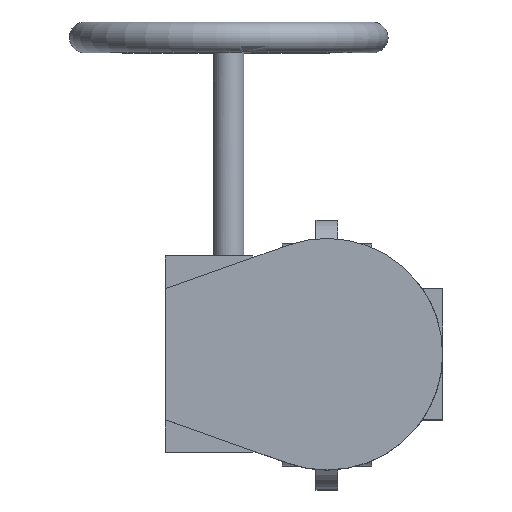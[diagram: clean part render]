
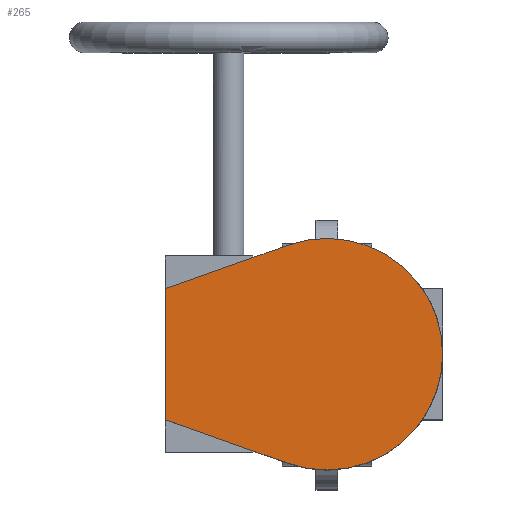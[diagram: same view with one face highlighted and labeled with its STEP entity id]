
A CAD part, top view. The second image highlights one B-rep face of the part: STEP entity #265.
In plain terms, the highlighted planar face has unit normal (0, 0, 1).
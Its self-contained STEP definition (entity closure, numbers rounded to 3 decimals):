
#265=ADVANCED_FACE('',(#5940),#5942,.T.);
#5940=FACE_BOUND('',#5941,.T.);
#5941=EDGE_LOOP('',(#10458,#10459,#10460,#10461));
#5942=PLANE('',#5943);
#5943=AXIS2_PLACEMENT_3D('',#5944,#5945,#5946);
#5944=CARTESIAN_POINT('',(0.,0.,226.));
#5945=DIRECTION('',(0.,0.,1.));
#5946=DIRECTION('',(0.,1.,0.));
#10458=ORIENTED_EDGE('',*,*,#13968,.T.);
#10459=ORIENTED_EDGE('',*,*,#13964,.T.);
#10460=ORIENTED_EDGE('',*,*,#13957,.T.);
#10461=ORIENTED_EDGE('',*,*,#13952,.T.);
#13952=EDGE_CURVE('',#15791,#15789,#15792,.T.);
#13957=EDGE_CURVE('',#15799,#15791,#15800,.T.);
#13964=EDGE_CURVE('',#15812,#15799,#15813,.T.);
#13968=EDGE_CURVE('',#15789,#15812,#15818,.T.);
#15789=VERTEX_POINT('',#18855);
#15791=VERTEX_POINT('',#18859);
#15792=LINE('',#18860,#18861);
#15799=VERTEX_POINT('',#18877);
#15800=LINE('',#18878,#18879);
#15812=VERTEX_POINT('',#18904);
#15813=LINE('',#18905,#18906);
#15818=CIRCLE('',#18918,53.);
#18855=CARTESIAN_POINT('',(-17.708,-49.954,226.));
#18859=CARTESIAN_POINT('',(-74.,-30.,226.));
#18860=CARTESIAN_POINT('',(-74.,-30.,226.));
#18861=VECTOR('',#18862,1.);
#18862=DIRECTION('',(0.943,-0.334,0.));
#18877=CARTESIAN_POINT('',(-74.,30.,226.));
#18878=CARTESIAN_POINT('',(-74.,30.,226.));
#18879=VECTOR('',#18880,1.);
#18880=DIRECTION('',(0.,-1.,0.));
#18904=CARTESIAN_POINT('',(-17.708,49.954,226.));
#18905=CARTESIAN_POINT('',(-17.708,49.954,226.));
#18906=VECTOR('',#18907,1.);
#18907=DIRECTION('',(-0.943,-0.334,0.));
#18918=AXIS2_PLACEMENT_3D('',#18919,#18920,#18921);
#18919=CARTESIAN_POINT('',(0.,0.,226.));
#18920=DIRECTION('',(0.,0.,1.));
#18921=DIRECTION('',(-0.334,-0.943,0.));
